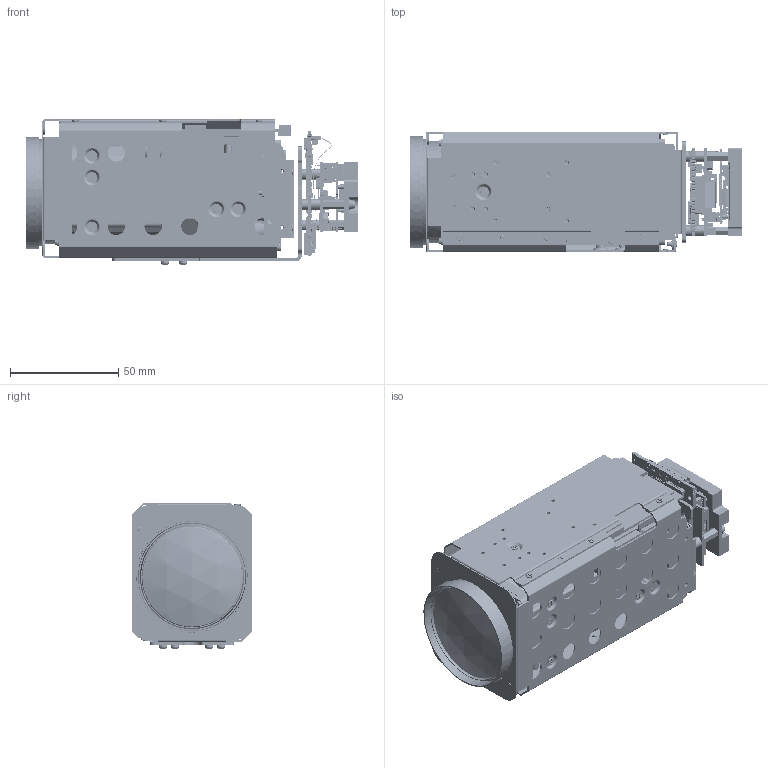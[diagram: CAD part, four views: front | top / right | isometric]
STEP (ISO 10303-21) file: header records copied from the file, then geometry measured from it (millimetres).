
FILE_DESCRIPTION( ( 'Unknown' ), '1' );
FILE_NAME( 'Q:/2003/Product3DCADModels/STEP-test/mm-ap29c01-0144-0101.stp', 'Unknown', ( 'Unknown' ), ( 'Unknown' ), 'PSStep 17.0.49', 'Unknown', ' ' );
FILE_SCHEMA( ( 'AUTOMOTIVE_DESIGN { 1 0 10303 214 1 1 1 1 }' ) );
Length unit declared in the file: millimetre
Products named in the file (721): Lead-4; Open_CASCADE_STEP_translator_6.8_1.2.1; Lead-5; Lead-7; Lead-3; Lead-6; Lead-2; Lead; Lead-1; 5993357248; body; Body; Open_CASCADE_STEP_translator_6.8_17.2.1; DEFAULT; DEFAULT-1; DEFAULT-2; Pin_Shape; Open_CASCADE_STEP_translator_6.8_17.4.1; FRAME_RUG0010A; Open CASCADE STEP translator 6.8 16.15.1.1.1; Open CASCADE STEP translator 6.8 16.15.1.1.2; Open CASCADE STEP translator 6.8 16.15.1.1.3; Open CASCADE STEP translator 6.8 16.15.1.1.4; Open CASCADE STEP translator 6.8 16.15.1.1.5; Open CASCADE STEP translator 6.8 16.15.1.1.6; Open CASCADE STEP translator 6.8 16.15.1.1.7; Open CASCADE STEP translator 6.8 16.15.1.1.8; Open CASCADE STEP translator 6.8 16.15.1.1.9; Open CASCADE STEP translator 6.8 16.15.1.1.10; User_Library-OSC_2520; User_Library-Oscillator2520-4pol-1_Cut004; User_Library-Oscillator2520-4pol-1_Zylinder; User_Library-Oscillator2520-4pol-1_Cut; 6851794464; Extruded; 8444263424; CHV2010-FX-1003EST; term1; term2; 8316624448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
Assembly tree (1614 placements, depth 7):
  Assem1
    G-806-048H  x4
    G-875-322T  x3
    flexi-01
    G-106-321A  x3
    heatsink-0389-02
    G-977-016Z  x3
    G-915-068V  x3
    G-080-752R  x3
    bracket-assy
      bracket-0378-02
      G-373-916V  x3
      G-513-075C  x3
    AS-CAM-36LGHD-A
      PCB_SPACER__
      MAIN_PCB_
      SENSOR_SPACER_SHEET
      SHEET__
      35X_IPT_ASM
        149200-1000_SHRINKWRAP_1_ASM
          _X2_5B9E4F53_X0_1
          _X2_5B9E4F53_X0_2
          _X2_5B9E4F53_X0_3
          _X2_5B9E4F53_X0_4
          _X2_5B9E4F53_X0_5
          _X2_5B9E4F53_X0_6
          _X2_5B9E4F53_X0_7-12324
          _X2_5B9E4F53_X0_7-12325
          _X2_5B9E4F53_X0_8
          _X2_5B9E4F53_X0_9
          _X2_5B9E4F53_X0_10
          _X2_5B9E4F53_X0_11
          _X2_5B9E4F53_X0_12
          _X2_5B9E4F53_X0_13
          _X2_5B9E4F53_X0_14
          _X2_5B9E4F53_X0_15
          _X2_5B9E4F53_X0_16
          _X2_5B9E4F53_X0_17
          _X2_5B9E4F53_X0_18
          _X2_5B9E4F53_X0_19
          _X2_5B9E4F53_X0_20
          _X2_5B9E4F53_X0_21
          _X2_5B9E4F53_X0_22
          _X2_5B9E4F53_X0_23
          _X2_5B9E4F53_X0_24
          _X2_5B9E4F53_X0_25
          _X2_5B9E4F53_X0_26
          _X2_5B9E4F53_X0_27
          _X2_5B9E4F53_X0_28
          1592M1-1012
          149200-1000_SHRINKWRAP_1_ASM
      SENSOR_PCB_ASSY__ASM
        PRT0003_
        CMOS_IMX264_265_392LQJ-C
      CHASSIS_ASM
        323037090_CHASSIS_TOP
        TS_LH_M2X4_TYPE2  x6
        MS_LH_M2X3  x3
        MS_LH_M2X4  x6
        323037095_CHASSIS_BOTTOM
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Bounding box: 153.55 x 55.6 x 67.14 mm (x, y, z)
Volume: 120830.4 mm3; surface area: 213659.2 mm2
Topology: 1220 solids, 1221 shells, 22523 faces, 57540 edges, 37630 vertices
Faces by surface type: plane 17762, cylinder 3454, revolution 382, torus 294, bspline 205, sphere 169, extrusion 160, cone 97
Full cylindrical faces by diameter (mm): 0.041 x1, 0.1 x184, 0.15 x1, 0.2 x2, 0.25 x1, 0.5 x1, 0.519 x1, 0.7 x8, 0.8 x8, 0.9 x8, 1 x1, 1.051 x2, 1.09 x1, 1.1 x2, 1.12 x2, 1.2 x17, 1.349 x4, 1.35 x20, 1.4 x2, 1.499 x2, 1.5 x3, 1.567 x3, 1.599 x14, 1.6 x35, 1.699 x10, 1.7 x13, 1.789 x4, 1.791 x6, 1.8 x6, 1.801 x21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
Entity records: 525246 total; most frequent: CARTESIAN_POINT 96664, ORIENTED_EDGE 64013, DIRECTION 62268, EDGE_CURVE 32007, VECTOR 23931, LINE 23771, VERTEX_POINT 21403, AXIS2_PLACEMENT_3D 19042
